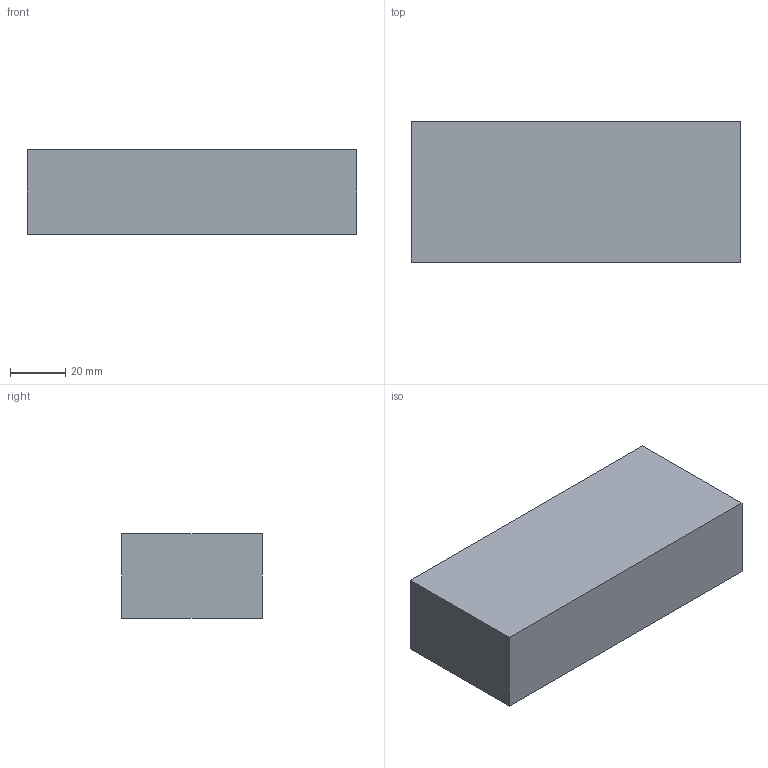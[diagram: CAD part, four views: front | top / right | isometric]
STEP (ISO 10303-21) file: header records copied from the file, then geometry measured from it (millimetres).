
FILE_DESCRIPTION(/* description */ ('STEP AP242','CAx-IF Rec.Pracs.---Representation and Presentation of Product Manufacturing Information (PMI)---4.0---2014-10-13','CAx-IF Rec.Pracs.---3D Tessellated Geometry---0.4---2014-09-14','2;1'),/* implementation_level */ '2;1');
FILE_NAME(/* name */ 'Assembly 1 - Part 1 (8)',/* time_stamp */ '2025-05-18T07:24:53Z',/* author */ (''),/* organization */ (''),/* preprocessor_version */ 'ST-DEVELOPER v20',/* originating_system */ 'ONSHAPE BY PTC INC, 1.198',/* authorisation */ ' ');
FILE_SCHEMA (('AP242_MANAGED_MODEL_BASED_3D_ENGINEERING_MIM_LF { 1 0 10303 442 1 1 4 }'));
Length unit declared in the file: metre
Products named in the file (1): Part 1
Bounding box: 119.38 x 50.8 x 30.48 mm (x, y, z)
Volume: 184846.1 mm3; surface area: 22503.2 mm2
Topology: 1 solids, 1 shells, 6 faces, 12 edges, 8 vertices
Faces by surface type: plane 6
Entity records: 178 total; most frequent: CARTESIAN_POINT 27, DIRECTION 26, ORIENTED_EDGE 24, EDGE_CURVE 12, LINE 12, VECTOR 12, VERTEX_POINT 8, AXIS2_PLACEMENT_3D 7
